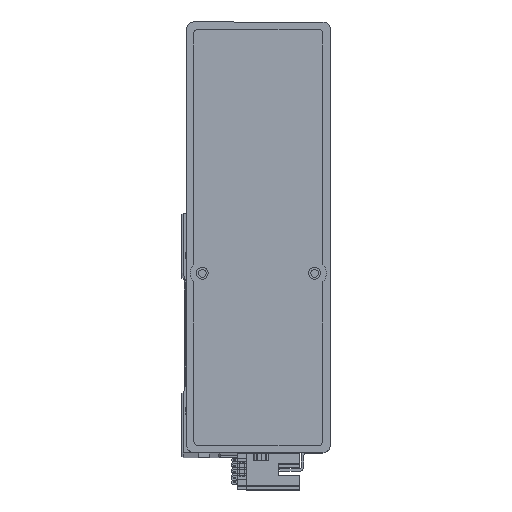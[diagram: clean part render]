
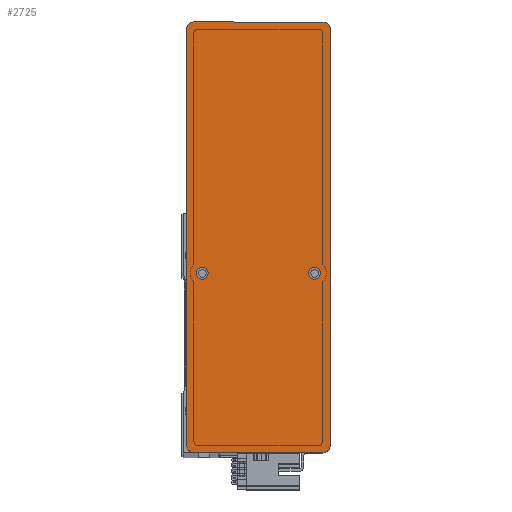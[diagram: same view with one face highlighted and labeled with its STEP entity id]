
A CAD part, top view. The second image highlights one B-rep face of the part: STEP entity #2725.
In plain terms, the highlighted planar face has unit normal (0, 0, 1) as drawn and (0, 0, -1) by its records, which use the part's own axes.
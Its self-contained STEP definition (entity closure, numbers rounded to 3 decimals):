
#425 = VERTEX_POINT ( 'NONE', #39835 ) ;
#668 = ORIENTED_EDGE ( 'NONE', *, *, #23154, .F. ) ;
#1250 = EDGE_LOOP ( 'NONE', ( #46513, #44490, #28240, #3902, #9023, #19042, #33427, #15334 ) ) ;
#2725 = ADVANCED_FACE ( 'NONE', ( #48705, #9883, #39578 ), #34848, .F. ) ;
#3005 = CIRCLE ( 'NONE', #41187, 3. ) ;
#3897 = CARTESIAN_POINT ( 'NONE',  ( -15., -23.5, 0. ) ) ;
#3902 = ORIENTED_EDGE ( 'NONE', *, *, #38025, .T. ) ;
#3994 = CARTESIAN_POINT ( 'NONE',  ( -90., -27., 0. ) ) ;
#4496 = VECTOR ( 'NONE', #28010, 1000. ) ;
#5098 = AXIS2_PLACEMENT_3D ( 'NONE', #27203, #7926, #35013 ) ;
#5568 = AXIS2_PLACEMENT_3D ( 'NONE', #45503, #22279, #49401 ) ;
#5601 = EDGE_CURVE ( 'NONE', #24149, #425, #35377, .T. ) ;
#5604 = CARTESIAN_POINT ( 'NONE',  ( 87., -30., 0. ) ) ;
#5615 = CIRCLE ( 'NONE', #5568, 2.5 ) ;
#6176 = CARTESIAN_POINT ( 'NONE',  ( -87., 27., 0. ) ) ;
#6616 = AXIS2_PLACEMENT_3D ( 'NONE', #6176, #33218, #10034 ) ;
#6643 = CARTESIAN_POINT ( 'NONE',  ( -87., -27., 0. ) ) ;
#7790 = DIRECTION ( 'NONE',  ( -1., 0., 0. ) ) ;
#7926 = DIRECTION ( 'NONE',  ( 0., 0., 1. ) ) ;
#8964 = CARTESIAN_POINT ( 'NONE',  ( 90., -30., 0. ) ) ;
#9023 = ORIENTED_EDGE ( 'NONE', *, *, #19426, .F. ) ;
#9236 = CARTESIAN_POINT ( 'NONE',  ( -17.5, 23.5, 0. ) ) ;
#9369 = VECTOR ( 'NONE', #12116, 1000. ) ;
#9476 = AXIS2_PLACEMENT_3D ( 'NONE', #33107, #9918, #37031 ) ;
#9657 = CARTESIAN_POINT ( 'NONE',  ( -90., 27., 0. ) ) ;
#9883 = FACE_BOUND ( 'NONE', #14218, .T. ) ;
#9918 = DIRECTION ( 'NONE',  ( 0., 0., -1. ) ) ;
#10034 = DIRECTION ( 'NONE',  ( 1., 0., 0. ) ) ;
#10435 = VECTOR ( 'NONE', #25128, 1000. ) ;
#10505 = DIRECTION ( 'NONE',  ( 1., 0., 0. ) ) ;
#11783 = ORIENTED_EDGE ( 'NONE', *, *, #38682, .F. ) ;
#12116 = DIRECTION ( 'NONE',  ( 0., -1., 0. ) ) ;
#12760 = VERTEX_POINT ( 'NONE', #16459 ) ;
#12842 = EDGE_CURVE ( 'NONE', #24149, #13218, #3005, .T. ) ;
#12862 = LINE ( 'NONE', #44646, #10435 ) ;
#13218 = VERTEX_POINT ( 'NONE', #20752 ) ;
#14143 = LINE ( 'NONE', #8964, #33508 ) ;
#14218 = EDGE_LOOP ( 'NONE', ( #14837, #668 ) ) ;
#14742 = CIRCLE ( 'NONE', #41326, 2.5 ) ;
#14778 = AXIS2_PLACEMENT_3D ( 'NONE', #43083, #19910, #47006 ) ;
#14829 = VERTEX_POINT ( 'NONE', #38120 ) ;
#14837 = ORIENTED_EDGE ( 'NONE', *, *, #41707, .F. ) ;
#15334 = ORIENTED_EDGE ( 'NONE', *, *, #12842, .T. ) ;
#16139 = EDGE_CURVE ( 'NONE', #35796, #39044, #28663, .T. ) ;
#16459 = CARTESIAN_POINT ( 'NONE',  ( -87., -30., 0. ) ) ;
#17118 = CARTESIAN_POINT ( 'NONE',  ( 87., 27., 0. ) ) ;
#18044 = VERTEX_POINT ( 'NONE', #42606 ) ;
#19042 = ORIENTED_EDGE ( 'NONE', *, *, #29319, .T. ) ;
#19426 = EDGE_CURVE ( 'NONE', #29813, #40780, #19706, .T. ) ;
#19706 = LINE ( 'NONE', #19792, #9369 ) ;
#19792 = CARTESIAN_POINT ( 'NONE',  ( -90., -30., 0. ) ) ;
#19910 = DIRECTION ( 'NONE',  ( 0., 0., -1. ) ) ;
#20752 = CARTESIAN_POINT ( 'NONE',  ( 90., 27., 0. ) ) ;
#21027 = DIRECTION ( 'NONE',  ( 1., 0., 0. ) ) ;
#21980 = DIRECTION ( 'NONE',  ( 0., 0., -1. ) ) ;
#22279 = DIRECTION ( 'NONE',  ( 0., 0., -1. ) ) ;
#23154 = EDGE_CURVE ( 'NONE', #48878, #18044, #41058, .T. ) ;
#24149 = VERTEX_POINT ( 'NONE', #31390 ) ;
#25128 = DIRECTION ( 'NONE',  ( 1., 0., 0. ) ) ;
#26105 = EDGE_CURVE ( 'NONE', #14829, #13218, #14143, .T. ) ;
#27203 = CARTESIAN_POINT ( 'NONE',  ( 0., 0., 0. ) ) ;
#28010 = DIRECTION ( 'NONE',  ( -1., 0., 0. ) ) ;
#28240 = ORIENTED_EDGE ( 'NONE', *, *, #50060, .F. ) ;
#28314 = CARTESIAN_POINT ( 'NONE',  ( -12.5, 23.5, 0. ) ) ;
#28663 = CIRCLE ( 'NONE', #31347, 2.5 ) ;
#29319 = EDGE_CURVE ( 'NONE', #29813, #425, #31706, .T. ) ;
#29774 = VERTEX_POINT ( 'NONE', #5604 ) ;
#29813 = VERTEX_POINT ( 'NONE', #9657 ) ;
#30169 = AXIS2_PLACEMENT_3D ( 'NONE', #6643, #33724, #10505 ) ;
#30935 = DIRECTION ( 'NONE',  ( 0., 0., -1. ) ) ;
#31347 = AXIS2_PLACEMENT_3D ( 'NONE', #45231, #21980, #49115 ) ;
#31390 = CARTESIAN_POINT ( 'NONE',  ( 87., 30., 0. ) ) ;
#31706 = CIRCLE ( 'NONE', #6616, 3. ) ;
#32128 = DIRECTION ( 'NONE',  ( 0., 1., 0. ) ) ;
#33107 = CARTESIAN_POINT ( 'NONE',  ( -15., -23.5, 0. ) ) ;
#33218 = DIRECTION ( 'NONE',  ( 0., 0., -1. ) ) ;
#33427 = ORIENTED_EDGE ( 'NONE', *, *, #5601, .F. ) ;
#33508 = VECTOR ( 'NONE', #32128, 1000. ) ;
#33724 = DIRECTION ( 'NONE',  ( 0., 0., -1. ) ) ;
#34848 = PLANE ( 'NONE',  #5098 ) ;
#35013 = DIRECTION ( 'NONE',  ( 1., 0., 0. ) ) ;
#35377 = LINE ( 'NONE', #43469, #4496 ) ;
#35796 = VERTEX_POINT ( 'NONE', #9236 ) ;
#37031 = DIRECTION ( 'NONE',  ( -1., 0., 0. ) ) ;
#38025 = EDGE_CURVE ( 'NONE', #12760, #40780, #45169, .T. ) ;
#38120 = CARTESIAN_POINT ( 'NONE',  ( 90., -27., 0. ) ) ;
#38682 = EDGE_CURVE ( 'NONE', #39044, #35796, #5615, .T. ) ;
#39044 = VERTEX_POINT ( 'NONE', #28314 ) ;
#39578 = FACE_OUTER_BOUND ( 'NONE', #1250, .T. ) ;
#39835 = CARTESIAN_POINT ( 'NONE',  ( -87., 30., 0. ) ) ;
#40126 = ORIENTED_EDGE ( 'NONE', *, *, #16139, .F. ) ;
#40337 = CIRCLE ( 'NONE', #14778, 3. ) ;
#40780 = VERTEX_POINT ( 'NONE', #3994 ) ;
#40815 = EDGE_CURVE ( 'NONE', #14829, #29774, #40337, .T. ) ;
#41058 = CIRCLE ( 'NONE', #9476, 2.5 ) ;
#41187 = AXIS2_PLACEMENT_3D ( 'NONE', #17118, #44239, #21027 ) ;
#41326 = AXIS2_PLACEMENT_3D ( 'NONE', #3897, #30935, #7790 ) ;
#41707 = EDGE_CURVE ( 'NONE', #18044, #48878, #14742, .T. ) ;
#42606 = CARTESIAN_POINT ( 'NONE',  ( -17.5, -23.5, 0. ) ) ;
#43083 = CARTESIAN_POINT ( 'NONE',  ( 87., -27., 0. ) ) ;
#43469 = CARTESIAN_POINT ( 'NONE',  ( 90., 30., 0. ) ) ;
#44239 = DIRECTION ( 'NONE',  ( 0., 0., -1. ) ) ;
#44490 = ORIENTED_EDGE ( 'NONE', *, *, #40815, .T. ) ;
#44646 = CARTESIAN_POINT ( 'NONE',  ( 90., -30., 0. ) ) ;
#45169 = CIRCLE ( 'NONE', #30169, 3. ) ;
#45231 = CARTESIAN_POINT ( 'NONE',  ( -15., 23.5, 0. ) ) ;
#45503 = CARTESIAN_POINT ( 'NONE',  ( -15., 23.5, 0. ) ) ;
#46513 = ORIENTED_EDGE ( 'NONE', *, *, #26105, .F. ) ;
#47006 = DIRECTION ( 'NONE',  ( 1., 0., 0. ) ) ;
#47881 = EDGE_LOOP ( 'NONE', ( #40126, #11783 ) ) ;
#48314 = CARTESIAN_POINT ( 'NONE',  ( -12.5, -23.5, 0. ) ) ;
#48705 = FACE_BOUND ( 'NONE', #47881, .T. ) ;
#48878 = VERTEX_POINT ( 'NONE', #48314 ) ;
#49115 = DIRECTION ( 'NONE',  ( -1., 0., 0. ) ) ;
#49401 = DIRECTION ( 'NONE',  ( -1., 0., 0. ) ) ;
#50060 = EDGE_CURVE ( 'NONE', #12760, #29774, #12862, .T. ) ;
